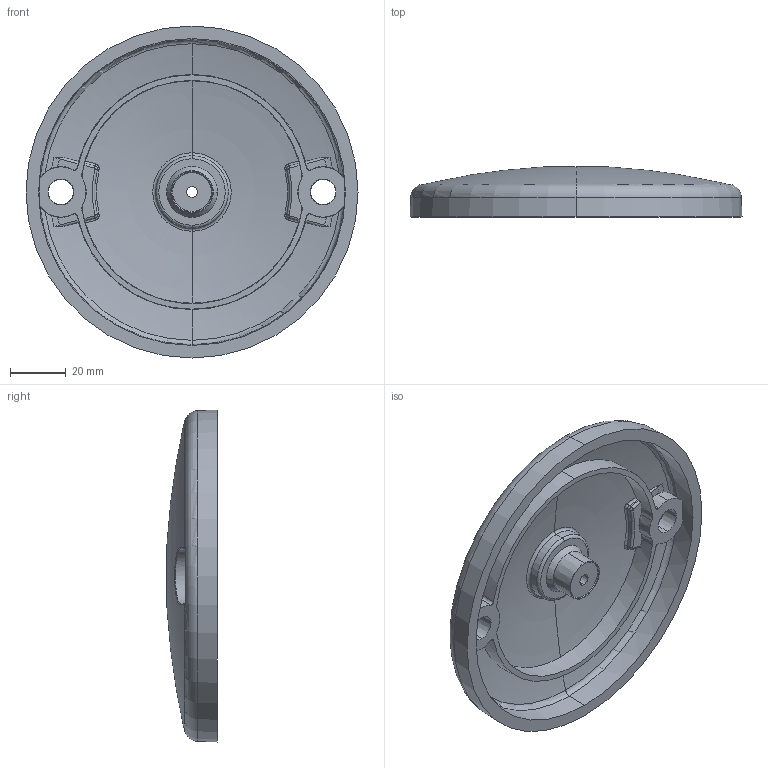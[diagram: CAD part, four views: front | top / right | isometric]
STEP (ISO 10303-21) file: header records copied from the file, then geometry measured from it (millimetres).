
FILE_DESCRIPTION (( 'STEP AP214' ), '1' );
FILE_NAME ('098d120zbs.STEP', '2013-02-26T10:38:20', ( '' ), ( '' ), 'SwSTEP 2.0', 'SolidWorks 2012', '' );
FILE_SCHEMA (( 'AUTOMOTIVE_DESIGN' ));
Length unit declared in the file: millimetre
Products named in the file (1): 098d120zbs
Bounding box: 119 x 18 x 119 mm (x, y, z)
Volume: 48142 mm3; surface area: 34024.1 mm2
Topology: 1 solids, 1 shells, 144 faces, 363 edges, 226 vertices
Faces by surface type: cone 40, bspline 38, plane 27, torus 27, cylinder 8, sphere 4
Entity records: 5690 total; most frequent: CARTESIAN_POINT 2446, ORIENTED_EDGE 726, DIRECTION 626, EDGE_CURVE 363, AXIS2_PLACEMENT_3D 284, VERTEX_POINT 226, CIRCLE 177, EDGE_LOOP 155
